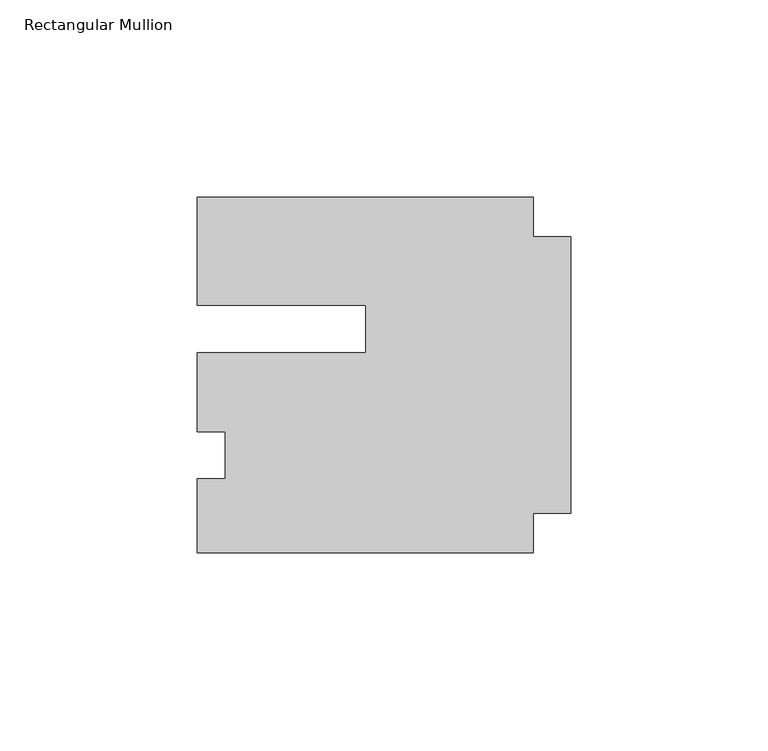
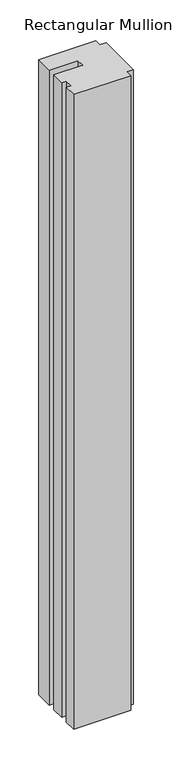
"""IFC4 building model written with IfcOpenShell, lengths in millimetres: member geometry, Rectangular Mullion : Klein_Nature_Profile-Top-Pocket."""

import ifcopenshell
import ifcopenshell.guid

model = None  # the IFC model being written
_history = None  # IfcOwnerHistory: only IFC2X3 demands one
_inside = {}  # id of a spatial element -> (the spatial element, [elements in it])
_under = {}  # id of a project, library or spatial element -> (it, [spatial elements below it])
_declared = {}  # id of a project -> (the project, [libraries it declares])
_typed = {}  # id of a type object -> (the type object, [elements of that type])
_made_of = {}  # id of a material, layer set ... -> (it, [elements and type objects made of it])


def new_model(schema):
    """Start an empty IFC model of exactly this schema.

    Asked for "IFC4X3", IfcOpenShell would pick the latest addendum, in which some entities
    have other attributes; the version numbers below select the first issue.
    IFC2X3 requires an IfcOwnerHistory on every rooted entity: one is made here for all.
    """
    global model, _history
    if schema == "IFC4X3":
        model = ifcopenshell.file(schema_version=(4, 3, 0, 0))
    else:
        model = ifcopenshell.file(schema=schema)
    _inside.clear()
    _under.clear()
    _declared.clear()
    _typed.clear()
    _made_of.clear()
    _history = None
    if model.schema == "IFC2X3":
        org = make("IfcOrganization", Name="unknown")
        user = make(
            "IfcPersonAndOrganization",
            ThePerson=make("IfcPerson", FamilyName="unknown"),
            TheOrganization=org,
        )
        app = make(
            "IfcApplication",
            ApplicationDeveloper=org,
            Version="unknown",
            ApplicationFullName="unknown",
            ApplicationIdentifier="unknown",
        )
        _history = make(
            "IfcOwnerHistory",
            OwningUser=user,
            OwningApplication=app,
            ChangeAction="ADDED",
            CreationDate=0,
        )
    return model


def make(cls, **values):
    """One entity of the class cls with the attributes given. An attribute that is None is left unset."""
    return model.create_entity(
        cls, **{name: value for name, value in values.items() if value is not None}
    )


def rooted(cls, **values):
    """An entity with a GlobalId (a new one), such as an element, a storey or a relation."""
    return make(cls, GlobalId=ifcopenshell.guid.new(), OwnerHistory=_history, **values)


def si_unit(unit_type, name, prefix=None):
    """IfcSIUnit, for example si_unit("LENGTHUNIT", "METRE", prefix="MILLI")."""
    return make("IfcSIUnit", UnitType=unit_type, Prefix=prefix, Name=name)


def assignment(units):
    """IfcUnitAssignment: the units of a project."""
    return None if units is None else make("IfcUnitAssignment", Units=units)


def point(xyz):
    """IfcCartesianPoint."""
    return None if xyz is None else make("IfcCartesianPoint", Coordinates=xyz)


def direction(xyz):
    """IfcDirection."""
    return None if xyz is None else make("IfcDirection", DirectionRatios=xyz)


def frame(location, z_axis=None, x_axis=None):
    """IfcAxis2Placement3D, a coordinate frame: its origin and axes. An axis left out is left unset."""
    return make(
        "IfcAxis2Placement3D",
        Location=point(location),
        Axis=direction(z_axis),
        RefDirection=direction(x_axis),
    )


def origin():
    """The frame at (0, 0, 0) with its axes left unset."""
    return frame((0.0, 0.0, 0.0))


def place(relative_to, where):
    """IfcLocalPlacement: puts the frame where relative to a parent placement (None: the world)."""
    return make(
        "IfcLocalPlacement", PlacementRelTo=relative_to, RelativePlacement=where
    )


def context(
    kind, dimensions, precision=None, world=None, true_north=None, identifier=None
):
    """IfcGeometricRepresentationContext, for example the 3D "Model" context."""
    return make(
        "IfcGeometricRepresentationContext",
        ContextIdentifier=identifier,
        ContextType=kind,
        CoordinateSpaceDimension=dimensions,
        Precision=precision,
        WorldCoordinateSystem=world,
        TrueNorth=true_north,
    )


def project(units=None, contexts=None):
    """IfcProject with its units and contexts."""
    return rooted(
        "IfcProject",
        Name="project",
        RepresentationContexts=contexts,
        UnitsInContext=assignment(units),
    )


def spatial(cls, under=None, at=None, **own):
    """A site, building, storey or space (cls), placed at a placement, below another one or the project."""
    s = rooted(cls, ObjectPlacement=at, **own)
    if under is not None:
        _under.setdefault(under.id(), (under, []))[1].append(s)
    return s


def polyline(points):
    """IfcPolyline through the points."""
    return make("IfcPolyline", Points=[point(p) for p in points])


def outline(outer, holes=None, kind="AREA"):
    """IfcArbitraryClosedProfileDef: a profile drawn as a closed curve; with holes, ...WithVoids."""
    if holes is None:
        return make("IfcArbitraryClosedProfileDef", ProfileType=kind, OuterCurve=outer)
    return make(
        "IfcArbitraryProfileDefWithVoids",
        ProfileType=kind,
        OuterCurve=outer,
        InnerCurves=holes,
    )


def extrude(swept, where, along, depth):
    """IfcExtrudedAreaSolid: the profile swept, set in the frame where, extruded along a direction by depth."""
    return make(
        "IfcExtrudedAreaSolid",
        SweptArea=swept,
        Position=where,
        ExtrudedDirection=direction(along),
        Depth=depth,
    )


def shape(context_of_items, identifier, shape_type, items):
    """IfcShapeRepresentation: the items that make up one representation, for example the "Body"."""
    return make(
        "IfcShapeRepresentation",
        ContextOfItems=context_of_items,
        RepresentationIdentifier=identifier,
        RepresentationType=shape_type,
        Items=items,
    )


def source(mapping_origin, context_of_items, identifier, shape_type, items):
    """IfcRepresentationMap: a shape defined once, which mapped items show again and again."""
    return make(
        "IfcRepresentationMap",
        MappingOrigin=mapping_origin,
        MappedRepresentation=shape(context_of_items, identifier, shape_type, items),
    )


def transform(
    local_origin,
    x_axis=None,
    y_axis=None,
    z_axis=None,
    scale=None,
    scale2=None,
    scale3=None,
    uniform=True,
):
    """IfcCartesianTransformationOperator3D, or its non-uniform kind. x_axis, y_axis, z_axis: its Axis1, 2, 3."""
    if uniform:
        return make(
            "IfcCartesianTransformationOperator3D",
            Axis1=direction(x_axis),
            Axis2=direction(y_axis),
            LocalOrigin=point(local_origin),
            Scale=scale,
            Axis3=direction(z_axis),
        )
    return make(
        "IfcCartesianTransformationOperator3DnonUniform",
        Axis1=direction(x_axis),
        Axis2=direction(y_axis),
        LocalOrigin=point(local_origin),
        Scale=scale,
        Axis3=direction(z_axis),
        Scale2=scale2,
        Scale3=scale3,
    )


def mapped(mapping_source, mapping_target):
    """IfcMappedItem: shows the shape of a source again, moved by a transform."""
    return make(
        "IfcMappedItem", MappingSource=mapping_source, MappingTarget=mapping_target
    )


def made_of(thing, what):
    """Note that an element or type object is made of a material, layer set ...; save() writes the relation."""
    if what is not None:
        _made_of.setdefault(what.id(), (what, []))[1].append(thing)
    return thing


def element(
    cls,
    number,
    at=None,
    inside=None,
    cuts=None,
    type_object=None,
    material=None,
    context=None,
    identifier="Body",
    shape_type=None,
    held_by="IfcProductDefinitionShape",
    body=None,
    shapes=None,
    **own,
):
    """One element of the class cls, such as IfcWall. Its Tag is "e" and its number.

    at: its placement. inside: the storey or other place that contains it. cuts: it is an
    opening in that element (IfcRelVoidsElement). A single representation is given by context,
    identifier, shape_type and body (its items); several are given by shapes. held_by: the class
    of the entity that holds the representations. save() writes the other relations.
    """
    e = rooted(cls, Tag="e%d" % number, ObjectPlacement=at, **own)
    if body is not None:
        shapes = [shape(context, identifier, shape_type, body)]
    if shapes is not None:
        e.Representation = make(held_by, Representations=shapes)
    if inside is not None:
        _inside.setdefault(inside.id(), (inside, []))[1].append(e)
    if cuts is not None:
        rooted(
            "IfcRelVoidsElement", RelatingBuildingElement=cuts, RelatedOpeningElement=e
        )
    if type_object is not None:
        _typed.setdefault(type_object.id(), (type_object, []))[1].append(e)
    return made_of(e, material)


def aggregate(whole, parts):
    """IfcRelAggregates: a whole, such as a stair, and the parts it consists of."""
    return rooted("IfcRelAggregates", RelatingObject=whole, RelatedObjects=parts)


def save(model, path):
    """Write the relations noted so far, then the file.

    IfcRelAggregates (storeys below a building ...), IfcRelContainedInSpatialStructure (elements
    in a storey), IfcRelDefinesByType, IfcRelAssociatesMaterial and IfcRelDeclares: one each for
    every whole, place, type object, material and project.
    """
    for whole, parts in _under.values():
        aggregate(whole, parts)
    for where, things in _inside.values():
        rooted(
            "IfcRelContainedInSpatialStructure",
            RelatedElements=things,
            RelatingStructure=where,
        )
    for kind, things in _typed.values():
        rooted("IfcRelDefinesByType", RelatedObjects=things, RelatingType=kind)
    for what, things in _made_of.values():
        rooted("IfcRelAssociatesMaterial", RelatedObjects=things, RelatingMaterial=what)
    for by, libraries in _declared.values():
        rooted("IfcRelDeclares", RelatingContext=by, RelatedDefinitions=libraries)
    model.write(path)


def rectangular_mullion_a82de65a(model_context):
    return source(origin(), model_context, "Body", "SweptSolid", [
        extrude(outline(polyline([(-94.4999981, 5.6999949), (-51.8499996, 5.699998), (-51.8500005, 17.699998), (-94.4999972, 17.6999949), (-94.4999952, 45.0000043), (-9.4999995, 44.9999981), (-9.5000002, 34.9999983), (0.0, 34.9999976), (-5.1e-06, -34.9999976), (-9.5000054, -34.9999969), (-9.5000061, -45.0000019), (-94.5000018, -44.9999957), (-94.5000005, -26.3000051), (-87.4999966, -26.3000046), (-87.4999975, -14.3000046), (-94.4999996, -14.3000051), (-94.4999981, 5.6999949)])), frame((0.0, 0.0, -999.9999998), z_axis=(0.0, 0.0, 1.0), x_axis=(1.0, 0.0, 0.0)), (0.0, 0.0, 1.0), 999.9999998),
    ])


if __name__ == "__main__":
    model = new_model("IFC4")
    model_context = context("Model", 3, world=origin())
    ifc_project = project(units=[si_unit("LENGTHUNIT", "METRE", prefix="MILLI")], contexts=[model_context])
    site = spatial("IfcSite", under=ifc_project)
    building = spatial("IfcBuilding", under=site)
    placement = place(None, origin())
    rectangular_mullion_shape = rectangular_mullion_a82de65a(model_context)
    element("IfcMember", 1, ObjectType="Rectangular Mullion : Klein_Nature_Profile-Top-Pocket", at=placement, inside=building, context=model_context, shape_type="MappedRepresentation", body=[
        mapped(rectangular_mullion_shape, transform((0.0, 0.0, 0.0), x_axis=(1.0, 0.0, 0.0), y_axis=(0.0, 1.0, 0.0), z_axis=(0.0, 0.0, 1.0))),
    ])
    save(model, "model.ifc")
